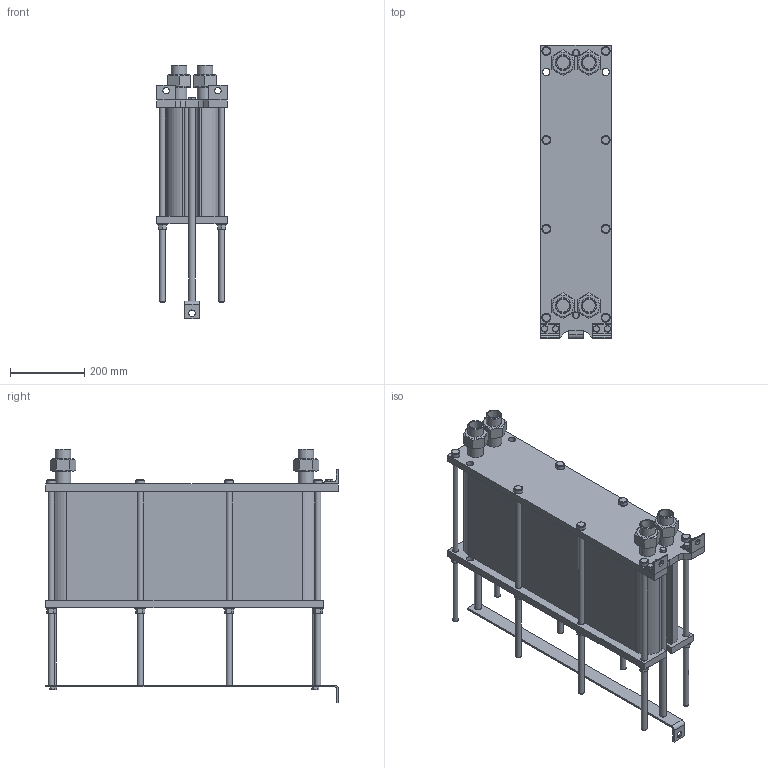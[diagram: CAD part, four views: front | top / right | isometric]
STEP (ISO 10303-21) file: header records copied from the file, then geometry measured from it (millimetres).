
FILE_DESCRIPTION(/* description */ (''),/* implementation_level */ '2;1');
FILE_NAME(/* name */ 'C:\Users\zhuro\Desktop\ENCO\TO\ЭН-008\ЭН-0,5-008-95-1.stp',/* time_stamp */ '2022-06-06T10:54:15+03:00',/* author */ ('zhuro'),/* organization */ (''),/* preprocessor_version */ 'ST-DEVELOPER v18.1',/* originating_system */ 'Autodesk Inventor 2022',/* authorisation */ '');
FILE_SCHEMA (('AUTOMOTIVE_DESIGN { 1 0 10303 214 3 1 1 }'));
Length unit declared in the file: millimetre
Products named in the file (1): ЭН-0,5-008-95-1
Bounding box: 190 x 790 x 685 mm (x, y, z)
Volume: 36970054.2 mm3; surface area: 1979230.6 mm2
Topology: 40 solids, 40 shells, 428 faces, 924 edges, 606 vertices
Faces by surface type: plane 273, cylinder 109, cone 40, torus 6
Full cylindrical faces by diameter (mm): 12 x6, 14 x2, 16 x20, 17 x8, 18 x19, 20 x5, 24 x8, 28 x8, 34.3 x8, 42.3 x8
Entity records: 15843 total; most frequent: CARTESIAN_POINT 5991, DIRECTION 1984, ORIENTED_EDGE 1848, EDGE_CURVE 924, AXIS2_PLACEMENT_3D 715, VERTEX_POINT 606, LINE 554, VECTOR 554
